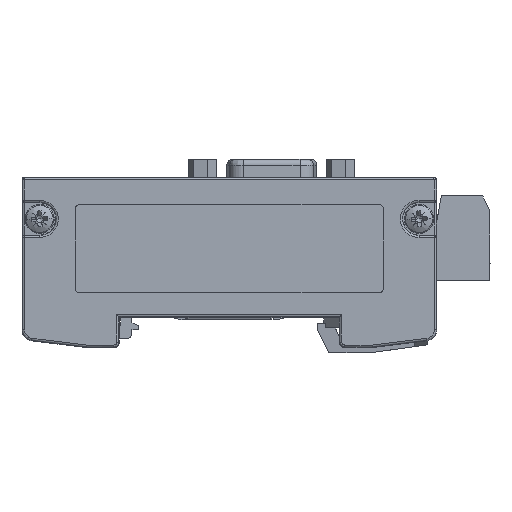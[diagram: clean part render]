
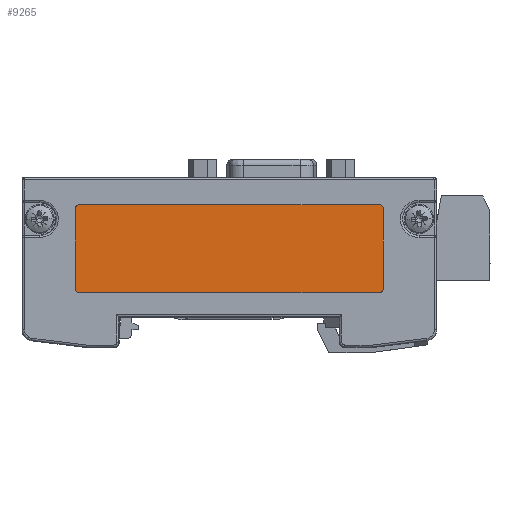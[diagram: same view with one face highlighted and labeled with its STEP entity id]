
A CAD part, left-side view. The second image highlights one B-rep face of the part: STEP entity #9265.
In plain terms, the highlighted planar face has unit normal (-1, 0, 0) as drawn and (0, 0, -1) by its records, which use the part's own axes.
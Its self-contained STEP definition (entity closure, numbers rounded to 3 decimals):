
#778 = VERTEX_POINT ( 'NONE', #60804 ) ;
#4353 = CARTESIAN_POINT ( 'NONE',  ( -5.75, -27.25, -3.9 ) ) ;
#5219 = VECTOR ( 'NONE', #23655, 1000. ) ;
#5918 = ORIENTED_EDGE ( 'NONE', *, *, #88519, .T. ) ;
#9265 = ADVANCED_FACE ( 'NONE', ( #63047 ), #59147, .T. ) ;
#9847 = EDGE_CURVE ( 'NONE', #134787, #56472, #137487, .T. ) ;
#10398 = DIRECTION ( 'NONE',  ( 0., 1., 0. ) ) ;
#15056 = DIRECTION ( 'NONE',  ( -1., 0., 0. ) ) ;
#15254 = DIRECTION ( 'NONE',  ( 0., -1., 0. ) ) ;
#18743 = DIRECTION ( 'NONE',  ( -1., 0., 0. ) ) ;
#20358 = VECTOR ( 'NONE', #15254, 1000. ) ;
#23655 = DIRECTION ( 'NONE',  ( -1., 0., 0. ) ) ;
#25368 = CARTESIAN_POINT ( 'NONE',  ( -20.25, 27.25, -3.9 ) ) ;
#27258 = DIRECTION ( 'NONE',  ( -1., 0., 0. ) ) ;
#27557 = CARTESIAN_POINT ( 'NONE',  ( -21., -27.25, -3.9 ) ) ;
#28827 = CIRCLE ( 'NONE', #29160, 0.75 ) ;
#29160 = AXIS2_PLACEMENT_3D ( 'NONE', #25368, #136714, #27258 ) ;
#30848 = CARTESIAN_POINT ( 'NONE',  ( -5.75, 27.25, -3.9 ) ) ;
#32372 = EDGE_CURVE ( 'NONE', #778, #70269, #79690, .T. ) ;
#32376 = ORIENTED_EDGE ( 'NONE', *, *, #73482, .T. ) ;
#33871 = DIRECTION ( 'NONE',  ( 1., 0., 0. ) ) ;
#34015 = ORIENTED_EDGE ( 'NONE', *, *, #32372, .T. ) ;
#35036 = VERTEX_POINT ( 'NONE', #88544 ) ;
#40168 = CARTESIAN_POINT ( 'NONE',  ( -5.75, 28., -3.9 ) ) ;
#40463 = DIRECTION ( 'NONE',  ( 0., 0., -1. ) ) ;
#41006 = DIRECTION ( 'NONE',  ( 0., 0., -1. ) ) ;
#44923 = CARTESIAN_POINT ( 'NONE',  ( -5., -28., -3.9 ) ) ;
#45610 = ORIENTED_EDGE ( 'NONE', *, *, #105941, .T. ) ;
#46166 = VERTEX_POINT ( 'NONE', #130147 ) ;
#51524 = AXIS2_PLACEMENT_3D ( 'NONE', #114771, #81446, #15056 ) ;
#54742 = CARTESIAN_POINT ( 'NONE',  ( -21., 27.25, -3.9 ) ) ;
#56472 = VERTEX_POINT ( 'NONE', #92288 ) ;
#59147 = PLANE ( 'NONE',  #51524 ) ;
#60804 = CARTESIAN_POINT ( 'NONE',  ( -5.75, -28., -3.9 ) ) ;
#63047 = FACE_OUTER_BOUND ( 'NONE', #87977, .T. ) ;
#65580 = CIRCLE ( 'NONE', #133483, 0.75 ) ;
#67104 = ORIENTED_EDGE ( 'NONE', *, *, #104000, .T. ) ;
#70269 = VERTEX_POINT ( 'NONE', #129266 ) ;
#72347 = VERTEX_POINT ( 'NONE', #54742 ) ;
#73482 = EDGE_CURVE ( 'NONE', #56472, #46166, #105217, .T. ) ;
#75381 = DIRECTION ( 'NONE',  ( -1., 0., 0. ) ) ;
#79690 = LINE ( 'NONE', #44923, #5219 ) ;
#79883 = CARTESIAN_POINT ( 'NONE',  ( -21., 28., -3.9 ) ) ;
#79901 = DIRECTION ( 'NONE',  ( -1., 0., 0. ) ) ;
#80451 = ORIENTED_EDGE ( 'NONE', *, *, #9847, .T. ) ;
#81446 = DIRECTION ( 'NONE',  ( 0., 0., -1. ) ) ;
#85070 = AXIS2_PLACEMENT_3D ( 'NONE', #30848, #41006, #18743 ) ;
#85530 = CARTESIAN_POINT ( 'NONE',  ( -20.25, -27.25, -3.9 ) ) ;
#87462 = EDGE_CURVE ( 'NONE', #46166, #778, #65580, .T. ) ;
#87977 = EDGE_LOOP ( 'NONE', ( #67104, #45610, #135300, #80451, #32376, #128225, #34015, #5918 ) ) ;
#88519 = EDGE_CURVE ( 'NONE', #70269, #111228, #95477, .T. ) ;
#88544 = CARTESIAN_POINT ( 'NONE',  ( -20.25, 28., -3.9 ) ) ;
#92288 = CARTESIAN_POINT ( 'NONE',  ( -5., 27.25, -3.9 ) ) ;
#93124 = EDGE_CURVE ( 'NONE', #35036, #134787, #113361, .T. ) ;
#95477 = CIRCLE ( 'NONE', #137295, 0.75 ) ;
#96923 = LINE ( 'NONE', #98532, #114097 ) ;
#98532 = CARTESIAN_POINT ( 'NONE',  ( -21., -28., -3.9 ) ) ;
#104000 = EDGE_CURVE ( 'NONE', #111228, #72347, #96923, .T. ) ;
#105217 = LINE ( 'NONE', #132969, #20358 ) ;
#105941 = EDGE_CURVE ( 'NONE', #72347, #35036, #28827, .T. ) ;
#111228 = VERTEX_POINT ( 'NONE', #27557 ) ;
#113361 = LINE ( 'NONE', #79883, #116839 ) ;
#114097 = VECTOR ( 'NONE', #10398, 1000. ) ;
#114652 = DIRECTION ( 'NONE',  ( 0., 0., -1. ) ) ;
#114771 = CARTESIAN_POINT ( 'NONE',  ( 0., 0., -3.9 ) ) ;
#116839 = VECTOR ( 'NONE', #33871, 1000. ) ;
#128225 = ORIENTED_EDGE ( 'NONE', *, *, #87462, .T. ) ;
#129266 = CARTESIAN_POINT ( 'NONE',  ( -20.25, -28., -3.9 ) ) ;
#130147 = CARTESIAN_POINT ( 'NONE',  ( -5., -27.25, -3.9 ) ) ;
#132969 = CARTESIAN_POINT ( 'NONE',  ( -5., 28., -3.9 ) ) ;
#133483 = AXIS2_PLACEMENT_3D ( 'NONE', #4353, #114652, #79901 ) ;
#134787 = VERTEX_POINT ( 'NONE', #40168 ) ;
#135300 = ORIENTED_EDGE ( 'NONE', *, *, #93124, .T. ) ;
#136714 = DIRECTION ( 'NONE',  ( 0., 0., -1. ) ) ;
#137295 = AXIS2_PLACEMENT_3D ( 'NONE', #85530, #40463, #75381 ) ;
#137487 = CIRCLE ( 'NONE', #85070, 0.75 ) ;
